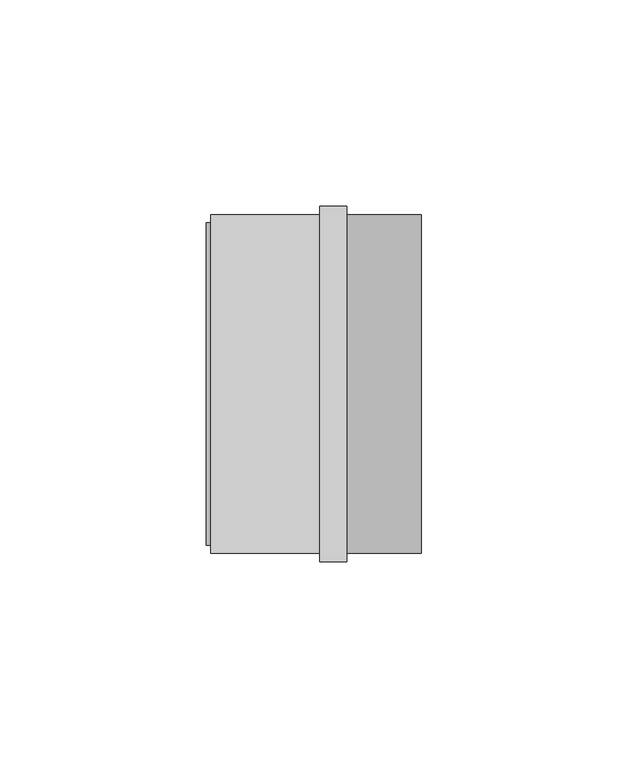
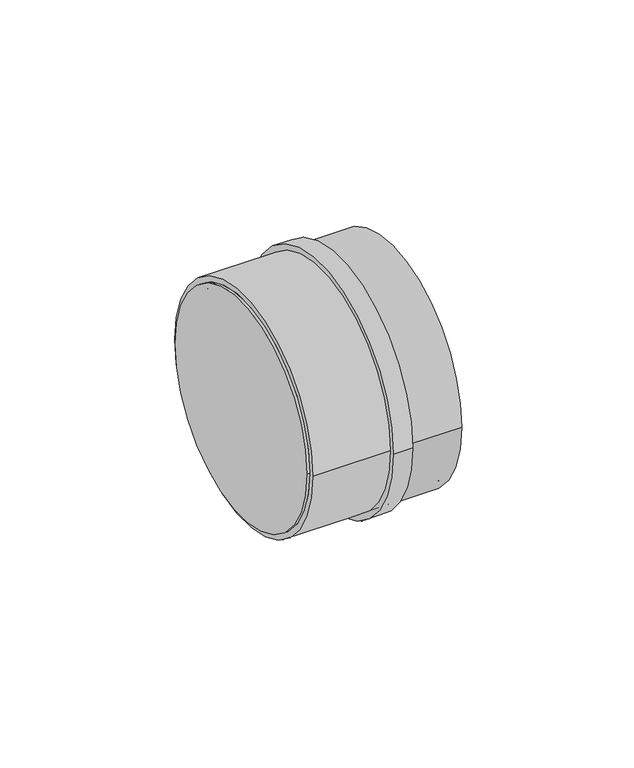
"""IFC4 building model written with IfcOpenShell, lengths in millimetres: pipe fitting geometry, Superdrain SKM-Plug : Superdrain SKM-Plug."""

from ifc_helpers import new_model, si_unit, point, frame, origin, origin_2d, place, context, project, spatial, polyline, circle_curve, trimmed, segment, composite_curve, outline, extrude, source, transform, mapped, element, save
from ifc_brep_helpers import plane_surface, cylinder_surface, revolved_surface, advanced_brep


def pipe_fitting_d605dde8(model_context):
    return source(origin(), model_context, "Body", "SolidModel", [
        extrude(outline(composite_curve([segment(trimmed(circle_curve(origin_2d(), 40.95), [point((40.95, 0.0))], [point((-40.95, 0.0))], False, "CARTESIAN"), True, "CONTINUOUS"), segment(trimmed(circle_curve(origin_2d(), 40.95), [point((-40.95, 0.0))], [point((40.95, 0.0))], False, "CARTESIAN"), True, "CONTINUOUS")], self_intersect=False), holes=[composite_curve([segment(trimmed(circle_curve(origin_2d(), 39.0), [point((39.0, 0.0))], [point((-39.0, 0.0))], True, "CARTESIAN"), True, "CONTINUOUS"), segment(trimmed(circle_curve(origin_2d(), 39.0), [point((-39.0, 0.0))], [point((39.0, 0.0))], True, "CARTESIAN"), True, "CONTINUOUS")], self_intersect=False)]), frame((0.0, 0.0, 0.0), z_axis=(1.0, 0.0, 0.0), x_axis=(0.0, 1.0, 0.0)), (0.0, 0.0, 1.0), 33.0),
        extrude(outline(composite_curve([segment(trimmed(circle_curve(origin_2d(), 42.9975), [point((42.9975, 0.0))], [point((-42.9975, 0.0))], False, "CARTESIAN"), True, "CONTINUOUS"), segment(trimmed(circle_curve(origin_2d(), 42.9975), [point((-42.9975, 0.0))], [point((42.9975, 0.0))], False, "CARTESIAN"), True, "CONTINUOUS")], self_intersect=False), holes=[composite_curve([segment(trimmed(circle_curve(origin_2d(), 39.0), [point((39.0, 0.0))], [point((-39.0, 0.0))], True, "CARTESIAN"), True, "CONTINUOUS"), segment(trimmed(circle_curve(origin_2d(), 39.0), [point((-39.0, 0.0))], [point((39.0, 0.0))], True, "CARTESIAN"), True, "CONTINUOUS")], self_intersect=False)]), frame((26.4, 0.0, 0.0), z_axis=(1.0, 0.0, 0.0), x_axis=(0.0, 1.0, 0.0)), (0.0, 0.0, 1.0), 6.6),
        extrude(outline(composite_curve([segment(trimmed(circle_curve(origin_2d(), 39.0), [point((39.0, 0.0))], [point((-39.0, 0.0))], False, "CARTESIAN"), True, "CONTINUOUS"), segment(trimmed(circle_curve(origin_2d(), 39.0), [point((-39.0, 0.0))], [point((39.0, 0.0))], False, "CARTESIAN"), True, "CONTINUOUS")], self_intersect=False)), frame((-1.0, 0.0, 0.0), z_axis=(1.0, 0.0, 0.0), x_axis=(0.0, 1.0, 0.0)), (0.0, 0.0, 1.0), 1.0),
        advanced_brep(
        [(0.0, -39.0, 0.0), (0.0, 39.0, 0.0), (0.0, 37.05, 0.0), (0.0, -37.05, 0.0), (51.0, -39.0, 0.0), (51.0, 39.0, 0.0), (33.0, -37.05, 0.0), (33.0, 37.05, 0.0)],
        [
            (0, 1, circle_curve(frame((0.0, 0.0, 0.0), z_axis=(-1.0, 0.0, 0.0), x_axis=(0.0, 1.0, 0.0)), 39.0)),
            (1, 0, circle_curve(frame((0.0, 0.0, 0.0), z_axis=(-1.0, 0.0, 0.0), x_axis=(0.0, 1.0, 0.0)), 39.0)),
            (2, 3, circle_curve(frame((0.0, 0.0, 0.0), z_axis=(1.0, 0.0, 0.0), x_axis=(0.0, 1.0, 0.0)), 37.05)),
            (3, 2, circle_curve(frame((0.0, 0.0, 0.0), z_axis=(1.0, 0.0, 0.0), x_axis=(0.0, 1.0, 0.0)), 37.05)),
            (4, 5, circle_curve(frame((51.0, 0.0, 0.0), z_axis=(1.0, 0.0, 0.0), x_axis=(0.0, 1.0, 0.0)), 39.0)),
            (5, 4, circle_curve(frame((51.0, 0.0, 0.0), z_axis=(1.0, 0.0, 0.0), x_axis=(0.0, 1.0, 0.0)), 39.0)),
            (0, 4),
            (5, 1),
            (6, 7, circle_curve(frame((33.0, 0.0, 0.0), z_axis=(-1.0, 0.0, 0.0), x_axis=(0.0, 1.0, 0.0)), 37.05)),
            (7, 6, circle_curve(frame((33.0, 0.0, 0.0), z_axis=(-1.0, 0.0, 0.0), x_axis=(0.0, 1.0, 0.0)), 37.05)),
            (6, 3),
            (2, 7),
        ],
        [
            plane_surface(frame((0.0, 0.0, 0.0), z_axis=(-1.0, 0.0, 0.0), x_axis=(0.0, 0.0, 1.0))),
            plane_surface(frame((51.0, 0.0, 0.0), z_axis=(1.0, 0.0, 0.0), x_axis=(0.0, 0.0, 1.0))),
            cylinder_surface(frame((0.0, 0.0, 0.0), z_axis=(-1.0, 0.0, 0.0), x_axis=(0.0, 1.0, 0.0)), 39.0),
            plane_surface(frame((33.0, 0.0, 0.0), z_axis=(-1.0, 0.0, 0.0), x_axis=(0.0, 0.0, 1.0))),
            revolved_surface(polyline([(0.0, 37.05, 0.0), (33.0, 37.05, 0.0)]), (-18.0, 0.0, 0.0), (-1.0, 0.0, 0.0)),
        ],
        [
            (0, [[1, 2], [3, 4]]),
            (1, [[5, 6]]),
            (2, [[-1, 7, -6, 8]]),
            (2, [[-2, -8, -5, -7]]),
            (3, [[9, 10]]),
            (4, [[-9, 11, -3, 12]]),
            (4, [[-10, -12, -4, -11]]),
        ],
    ),
        extrude(outline(composite_curve([segment(trimmed(circle_curve(origin_2d(), 40.95), [point((-40.95, 0.0))], [point((40.95, 0.0))], False, "CARTESIAN"), True, "CONTINUOUS"), segment(trimmed(circle_curve(origin_2d(), 40.95), [point((40.95, 0.0))], [point((-40.95, 0.0))], False, "CARTESIAN"), True, "CONTINUOUS")], self_intersect=False)), frame((33.0, 0.0, 0.0), z_axis=(1.0, 0.0, 0.0), x_axis=(0.0, 1.0, 0.0)), (0.0, 0.0, 1.0), 18.0),
    ])


if __name__ == "__main__":
    model = new_model("IFC4")
    model_context = context("Model", 3, world=origin())
    ifc_project = project(units=[si_unit("LENGTHUNIT", "METRE", prefix="MILLI")], contexts=[model_context])
    site = spatial("IfcSite", under=ifc_project)
    building = spatial("IfcBuilding", under=site)
    placement = place(None, origin())
    pipe_fitting_shape = pipe_fitting_d605dde8(model_context)
    element("IfcPipeFitting", 1, ObjectType="Superdrain SKM-Plug : Superdrain SKM-Plug", at=placement, inside=building, context=model_context, shape_type="MappedRepresentation", body=[
        mapped(pipe_fitting_shape, transform((0.0, 0.0, 0.0), x_axis=(1.0, 0.0, 0.0), y_axis=(0.0, 1.0, 0.0), z_axis=(0.0, 0.0, 1.0))),
    ])
    save(model, "model.ifc")
